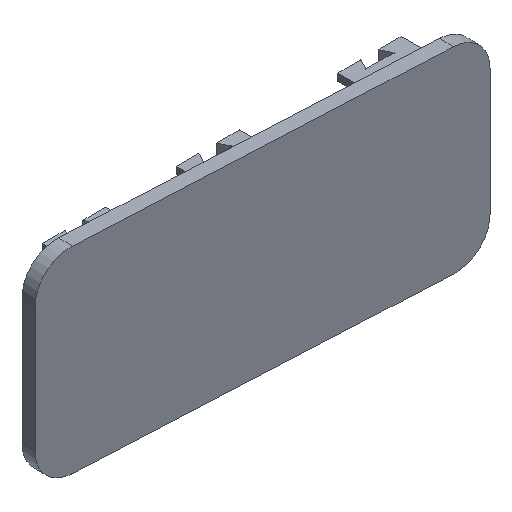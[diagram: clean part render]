
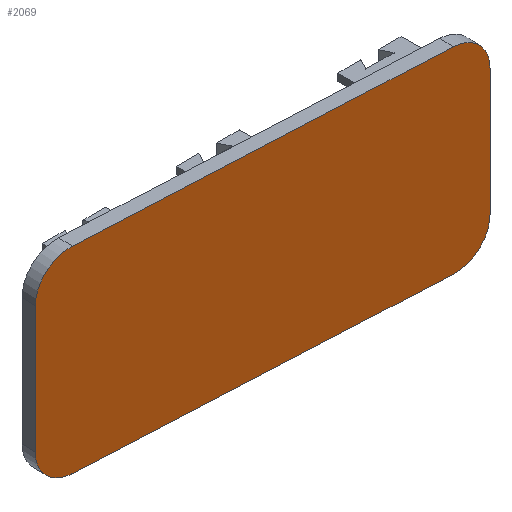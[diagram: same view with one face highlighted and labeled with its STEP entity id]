
A CAD part, isometric view. The second image highlights one B-rep face of the part: STEP entity #2069.
In plain terms, the highlighted planar face has unit normal (-0.049, -0.999, 0).
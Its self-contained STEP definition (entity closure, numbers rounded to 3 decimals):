
#26=PLANE('',#2201);
#134=FACE_OUTER_BOUND('',#247,.T.);
#247=EDGE_LOOP('',(#1558,#1559,#1560,#1561,#1562,#1563,#1564,#1565));
#354=LINE('',#2856,#647);
#408=LINE('',#2972,#701);
#409=LINE('',#2975,#702);
#412=LINE('',#2983,#705);
#647=VECTOR('',#2320,10.);
#701=VECTOR('',#2388,10.);
#702=VECTOR('',#2391,10.);
#705=VECTOR('',#2400,10.);
#937=CIRCLE('',#2188,10.);
#941=CIRCLE('',#2195,10.);
#942=CIRCLE('',#2199,10.);
#943=CIRCLE('',#2202,10.);
#948=VERTEX_POINT('',#2846);
#949=VERTEX_POINT('',#2848);
#951=VERTEX_POINT('',#2854);
#1005=VERTEX_POINT('',#2966);
#1006=VERTEX_POINT('',#2970);
#1007=VERTEX_POINT('',#2974);
#1008=VERTEX_POINT('',#2978);
#1009=VERTEX_POINT('',#2982);
#1149=EDGE_CURVE('',#948,#949,#937,.T.);
#1153=EDGE_CURVE('',#948,#951,#354,.T.);
#1208=EDGE_CURVE('',#1005,#951,#941,.T.);
#1211=EDGE_CURVE('',#1005,#1006,#408,.T.);
#1212=EDGE_CURVE('',#1007,#949,#409,.T.);
#1214=EDGE_CURVE('',#1007,#1008,#942,.T.);
#1216=EDGE_CURVE('',#1009,#1008,#412,.T.);
#1239=EDGE_CURVE('',#1006,#1009,#943,.T.);
#1558=ORIENTED_EDGE('',*,*,#1149,.F.);
#1559=ORIENTED_EDGE('',*,*,#1153,.T.);
#1560=ORIENTED_EDGE('',*,*,#1208,.F.);
#1561=ORIENTED_EDGE('',*,*,#1211,.T.);
#1562=ORIENTED_EDGE('',*,*,#1239,.T.);
#1563=ORIENTED_EDGE('',*,*,#1216,.T.);
#1564=ORIENTED_EDGE('',*,*,#1214,.F.);
#1565=ORIENTED_EDGE('',*,*,#1212,.T.);
#2069=ADVANCED_FACE('',(#134),#26,.F.);
#2188=AXIS2_PLACEMENT_3D('',#2849,#2313,#2314);
#2195=AXIS2_PLACEMENT_3D('',#2967,#2382,#2383);
#2199=AXIS2_PLACEMENT_3D('',#2979,#2395,#2396);
#2201=AXIS2_PLACEMENT_3D('',#3024,#2423,#2424);
#2202=AXIS2_PLACEMENT_3D('',#3025,#2425,#2426);
#2313=DIRECTION('center_axis',(0.049,0.999,0.));
#2314=DIRECTION('ref_axis',(0.706,-0.035,0.707));
#2320=DIRECTION('',(-0.999,0.049,0.));
#2382=DIRECTION('center_axis',(0.049,0.999,0.));
#2383=DIRECTION('ref_axis',(-0.706,0.035,0.707));
#2388=DIRECTION('',(0.,0.,-1.));
#2391=DIRECTION('',(0.,0.,1.));
#2395=DIRECTION('center_axis',(0.049,0.999,0.));
#2396=DIRECTION('ref_axis',(0.706,-0.035,-0.707));
#2400=DIRECTION('',(0.999,-0.049,0.));
#2423=DIRECTION('center_axis',(0.049,0.999,0.));
#2424=DIRECTION('ref_axis',(0.,0.,1.));
#2425=DIRECTION('center_axis',(-0.049,-0.999,0.));
#2426=DIRECTION('ref_axis',(-0.706,0.035,-0.707));
#2846=CARTESIAN_POINT('',(50.556,-13.256,28.25));
#2848=CARTESIAN_POINT('',(60.544,-13.745,18.25));
#2849=CARTESIAN_POINT('Origin',(50.556,-13.256,18.25));
#2854=CARTESIAN_POINT('',(-52.721,-8.205,28.25));
#2856=CARTESIAN_POINT('',(60.344,-13.735,28.25));
#2966=CARTESIAN_POINT('',(-62.709,-7.717,18.25));
#2967=CARTESIAN_POINT('Origin',(-52.721,-8.205,18.25));
#2970=CARTESIAN_POINT('',(-62.709,-7.717,-17.75));
#2972=CARTESIAN_POINT('',(-62.709,-7.717,28.75));
#2974=CARTESIAN_POINT('',(60.544,-13.745,-17.75));
#2975=CARTESIAN_POINT('',(60.544,-13.745,-27.75));
#2978=CARTESIAN_POINT('',(50.556,-13.256,-27.75));
#2979=CARTESIAN_POINT('Origin',(50.556,-13.256,-17.75));
#2982=CARTESIAN_POINT('',(-52.721,-8.205,-27.75));
#2983=CARTESIAN_POINT('',(-63.508,-7.678,-27.75));
#3024=CARTESIAN_POINT('Origin',(-0.583,-10.755,0.));
#3025=CARTESIAN_POINT('Origin',(-52.721,-8.205,-17.75));
